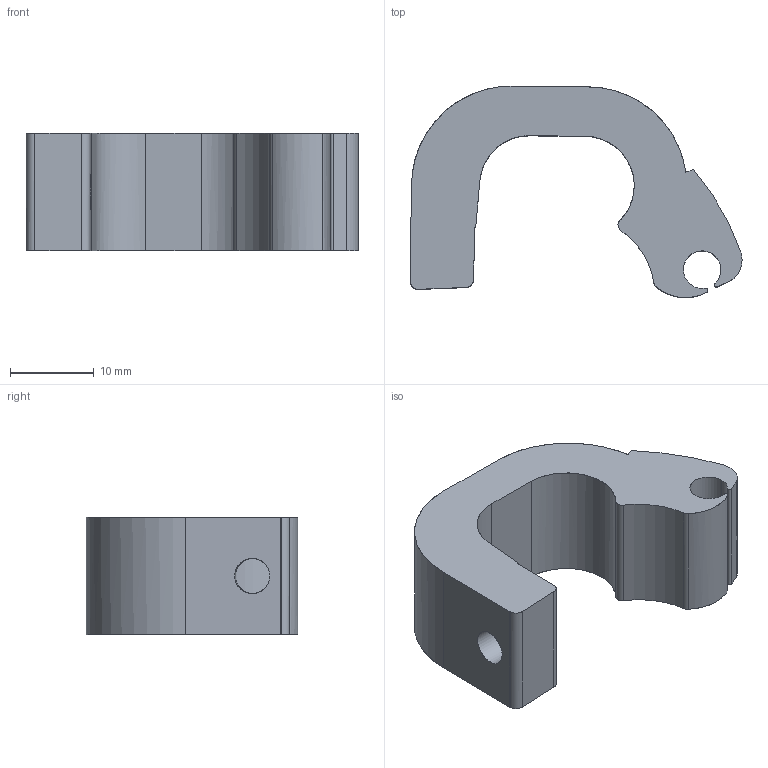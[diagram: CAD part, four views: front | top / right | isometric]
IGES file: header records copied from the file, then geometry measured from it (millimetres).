
Start section: Comment
Global section: file name: st-83.igs; native system:  By UGS Corp.; preprocessor: XPlus GENERIC/IGES 3.0; author: Author; organization: Title; date: 20080926.082427; units: millimetre
Bounding box: 39.73 x 25.31 x 14 mm (x, y, z)
Surface area: 3154.3 mm2 (no closed solid volume)
Topology: 0 solids, 0 shells, 32 faces, 184 edges, 184 vertices
Faces by surface type: bspline 32
